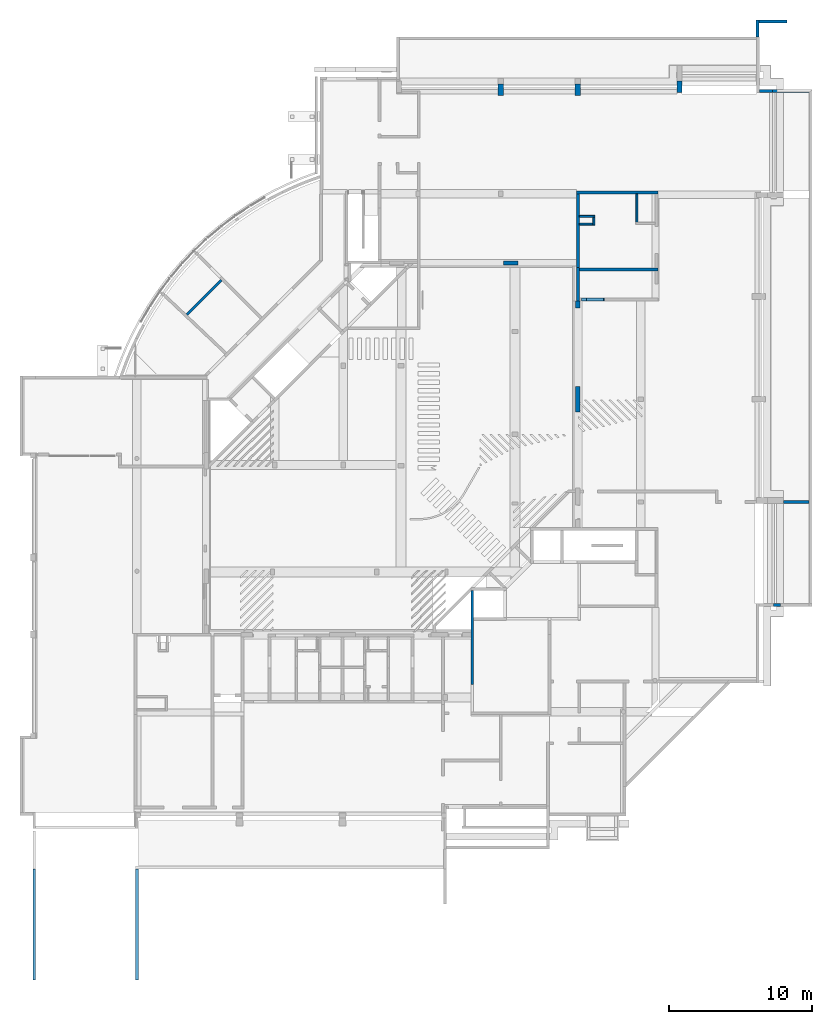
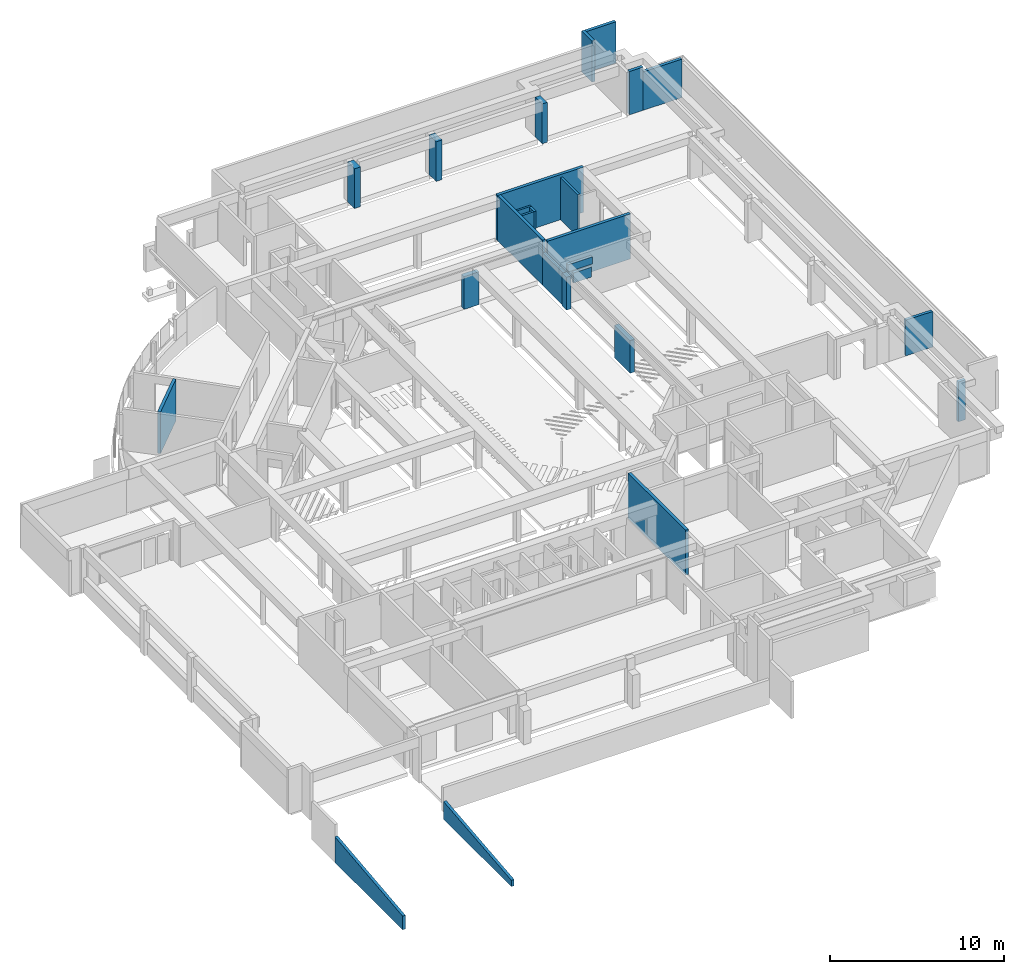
# One storey, part 10 of 22: 26 walls.
"""IFC4X3_ADD2 building model written with IfcOpenShell, lengths in millimetres."""

from ifc_helpers import new_model, si_unit, direction, frame, frame_2d, origin_with_axes, origin_2d_with_axis, place, context, subcontext, project, spatial, rectangle, extrude, polygons, material, type_object, element, save


model = new_model("IFC4X3_ADD2")

# Units and contexts
model_context = context("Model", 3, precision=1e-05, world=origin_with_axes(), true_north=direction((0.0, 1.0)))
body_context = subcontext(model_context, "Body", "Model", "MODEL_VIEW")
ifc_project = project(units=[si_unit("LENGTHUNIT", "METRE", prefix="MILLI"), si_unit("AREAUNIT", "SQUARE_METRE"), si_unit("VOLUMEUNIT", "CUBIC_METRE"), si_unit("PLANEANGLEUNIT", "RADIAN"), si_unit("TIMEUNIT", "SECOND"), si_unit("MASSUNIT", "GRAM")], contexts=[model_context])

# Site, building, storey
site_placement = place(None, origin_with_axes())
site = spatial("IfcSite", under=ifc_project, at=site_placement, Name="Site", CompositionType="ELEMENT")
building_placement = place(site_placement, origin_with_axes())
building = spatial("IfcBuilding", under=site, at=building_placement, Name="IFC Building Story")
storey_placement = place(building_placement, frame((0.0, 0.0, -3240.0), z_axis=(0.0, 0.0, 1.0), x_axis=(1.0, 0.0, 0.0)))
storey = spatial("IfcBuildingStorey", under=building, at=storey_placement, Name="K10", Elevation=-3240.0)

# Walls
ifc_material_1 = material(Name="BB_Beton_Bestaand")
wall_type_1 = type_object("IfcWallType", Name="BB_Beton_Bestaand 200", PredefinedType="NOTDEFINED", material=ifc_material_1)
wall_1_placement = place(storey_placement, origin_with_axes())
element("IfcWall", 1, at=wall_1_placement, inside=storey, type_object=wall_type_1, Name="Basic Wall:BB_XX_Wand uit beton, 200 mm", ObjectType="Basic Wall:BB_XX_Wand uit beton, 200 mm", PredefinedType="SOLIDWALL", context=body_context, shape_type="SweptSolid", body=[
    extrude(rectangle(XDim=2329.995934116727, YDim=199.9999999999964, at=frame_2d((0.0, 0.0), x_axis=(0.0, 1.0))), frame((-12600.0040658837, 37164.99796705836, 0.0), z_axis=(0.0, 0.0, 1.0), x_axis=(1.0, 0.0, 0.0)), (0.0, 0.0, 1.0), 2290.0),
])
wall_2_placement = place(storey_placement, origin_with_axes())
element("IfcWall", 2, at=wall_2_placement, inside=storey, type_object=wall_type_1, Name="Basic Wall:BB_XX_Wand uit beton, 200 mm", ObjectType="Basic Wall:BB_XX_Wand uit beton, 200 mm", PredefinedType="SOLIDWALL", context=body_context, shape_type="SweptSolid", body=[
    extrude(rectangle(XDim=5700.004065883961, YDim=200.0, at=origin_2d_with_axis()), frame((-9850.00203294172, 43600.0, 0.0), z_axis=(0.0, 0.0, 1.0), x_axis=(1.0, 0.0, 0.0)), (0.0, 0.0, 1.0), 3160.0),
])
wall_3_placement = place(storey_placement, origin_with_axes())
element("IfcWall", 3, at=wall_3_placement, inside=storey, type_object=wall_type_1, Name="Basic Wall:BB_XX_Wand uit beton, 200 mm", ObjectType="Basic Wall:BB_XX_Wand uit beton, 200 mm", PredefinedType="SOLIDWALL", context=body_context, shape_type="SweptSolid", body=[
    extrude(rectangle(XDim=5500.00406588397, YDim=200.0, at=origin_2d_with_axis()), frame((-9750.002032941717, 38200.0, 0.0), z_axis=(0.0, 0.0, 1.0), x_axis=(1.0, 0.0, 0.0)), (0.0, 0.0, 1.0), 3160.0),
])
wall_4_placement = place(storey_placement, origin_with_axes())
element("IfcWall", 4, at=wall_4_placement, inside=storey, type_object=wall_type_1, Name="Basic Wall:BB_XX_Wand uit beton, 200 mm", ObjectType="Basic Wall:BB_XX_Wand uit beton, 200 mm", PredefinedType="SOLIDWALL", context=body_context, shape_type="SweptSolid", body=[
    extrude(rectangle(XDim=5170.004065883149, YDim=199.9999999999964, at=frame_2d((0.0, 0.0), x_axis=(0.0, 1.0))), frame((-12600.0040658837, 40914.99796705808, 0.0), z_axis=(0.0, 0.0, 1.0), x_axis=(1.0, 0.0, 0.0)), (0.0, 0.0, 1.0), 3160.0),
])
wall_5_placement = place(storey_placement, origin_with_axes())
element("IfcWall", 5, at=wall_5_placement, inside=storey, type_object=wall_type_1, Name="Basic Wall:BB_XX_Wand uit beton, 200 mm", ObjectType="Basic Wall:BB_XX_Wand uit beton, 200 mm", PredefinedType="SOLIDWALL", context=body_context, shape_type="SweptSolid", body=[
    extrude(rectangle(XDim=909.999999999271, YDim=200.0000000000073, at=origin_2d_with_axis()), frame((589.9999999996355, 50700.0275077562, 0.0), z_axis=(0.0, 0.0, 1.0), x_axis=(1.0, 0.0, 0.0)), (0.0, 0.0, 1.0), 3040.0),
])
wall_6_placement = place(storey_placement, origin_with_axes())
element("IfcWall", 6, at=wall_6_placement, inside=storey, type_object=wall_type_1, Name="Basic Wall:BB_XX_Wand uit beton, 200 mm", ObjectType="Basic Wall:BB_XX_Wand uit beton, 200 mm", PredefinedType="SOLIDWALL", context=body_context, shape_type="SweptSolid", body=[
    extrude(rectangle(XDim=1965.0, YDim=200.0, at=origin_2d_with_axis()), frame((1082.5, 55581.0422367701, 0.0), z_axis=(0.0, 0.0, 1.0), x_axis=(1.0, 0.0, 0.0)), (0.0, 0.0, 1.0), 2890.0),
])
wall_7_placement = place(storey_placement, origin_with_axes())
element("IfcWall", 7, at=wall_7_placement, inside=storey, type_object=wall_type_1, Name="Basic Wall:BB_XX_Wand uit beton, 200 mm", ObjectType="Basic Wall:BB_XX_Wand uit beton, 200 mm", PredefinedType="SOLIDWALL", context=body_context, shape_type="SweptSolid", body=[
    extrude(rectangle(XDim=1181.111007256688, YDim=200.0, at=frame_2d((0.0, 0.0), x_axis=(0.0, 1.0))), frame((0.0, 55090.48673314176, 0.0), z_axis=(0.0, 0.0, 1.0), x_axis=(1.0, 0.0, 0.0)), (0.0, 0.0, 1.0), 2890.0),
])
wall_8_placement = place(storey_placement, origin_with_axes())
element("IfcWall", 8, at=wall_8_placement, inside=storey, type_object=wall_type_1, Name="Basic Wall:BB_XX_Wand uit beton, 200 mm", ObjectType="Basic Wall:BB_XX_Wand uit beton, 200 mm", PredefinedType="SOLIDWALL", context=body_context, shape_type="SweptSolid", body=[
    extrude(rectangle(XDim=2555.04020634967, YDim=200.0000000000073, at=origin_2d_with_axis()), frame((2322.520103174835, 50700.0275077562, 0.0), z_axis=(0.0, 0.0, 1.0), x_axis=(1.0, 0.0, 0.0)), (0.0, 0.0, 1.0), 2690.0),
])
wall_type_2 = type_object("IfcWallType", Name="BB_Beton_Bestaand 400", PredefinedType="NOTDEFINED", material=ifc_material_1)
wall_9_placement = place(storey_placement, origin_with_axes())
element("IfcWall", 9, at=wall_9_placement, inside=storey, type_object=wall_type_2, Name="Basic Wall:BB_XX_Wand uit beton, 400 mm", ObjectType="Basic Wall:BB_XX_Wand uit beton, 400 mm", PredefinedType="SOLIDWALL", context=body_context, shape_type="SweptSolid", body=[
    extrude(rectangle(XDim=799.9999999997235, YDim=400.0, at=frame_2d((0.0, 0.0), x_axis=(0.0, 1.0))), frame((-17999.3313868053, 50780.00000000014, 0.0), z_axis=(0.0, 0.0, 1.0), x_axis=(1.0, 0.0, 0.0)), (0.0, 0.0, 1.0), 2780.0),
])
wall_10_placement = place(storey_placement, origin_with_axes())
element("IfcWall", 10, at=wall_10_placement, inside=storey, type_object=wall_type_2, Name="Basic Wall:BB_XX_Wand uit beton, 400 mm", ObjectType="Basic Wall:BB_XX_Wand uit beton, 400 mm", PredefinedType="SOLIDWALL", context=body_context, shape_type="SweptSolid", body=[
    extrude(rectangle(XDim=799.9999999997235, YDim=400.0, at=frame_2d((0.0, 0.0), x_axis=(0.0, 1.0))), frame((-12599.3313868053, 50780.00000000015, 0.0), z_axis=(0.0, 0.0, 1.0), x_axis=(1.0, 0.0, 0.0)), (0.0, 0.0, 1.0), 2780.0),
])
wall_type_3 = type_object("IfcWallType", Name="BB_Beton_Bestaand 300", PredefinedType="NOTDEFINED", material=ifc_material_1)
wall_11_placement = place(storey_placement, origin_with_axes())
element("IfcWall", 11, at=wall_11_placement, inside=storey, type_object=wall_type_3, Name="Basic Wall:BB_XX_Wand uit beton, 300 mm", ObjectType="Basic Wall:BB_XX_Wand uit beton, 300 mm", PredefinedType="SOLIDWALL", context=body_context, shape_type="SweptSolid", body=[
    extrude(rectangle(XDim=1000.0, YDim=300.0, at=origin_2d_with_axis()), frame((-17300.0, 38650.0, 0.0), z_axis=(0.0, 0.0, 1.0), x_axis=(1.0, 0.0, 0.0)), (0.0, 0.0, 1.0), 2290.0),
])
wall_12_placement = place(storey_placement, origin_with_axes())
element("IfcWall", 12, at=wall_12_placement, inside=storey, type_object=wall_type_3, Name="Basic Wall:BB_XX_Wand uit beton, 300 mm", ObjectType="Basic Wall:BB_XX_Wand uit beton, 300 mm", PredefinedType="SOLIDWALL", context=body_context, shape_type="SweptSolid", body=[
    extrude(rectangle(XDim=500.0, YDim=300.0000000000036, at=frame_2d((0.0, 0.0), x_axis=(0.0, 1.0))), frame((-12600.0, 35750.0, 0.0), z_axis=(0.0, 0.0, 1.0), x_axis=(1.0, 0.0, 0.0)), (0.0, 0.0, 1.0), 2290.0),
])
wall_13_placement = place(storey_placement, origin_with_axes())
element("IfcWall", 13, at=wall_13_placement, inside=storey, type_object=wall_type_3, Name="Basic Wall:BB_XX_Wand uit beton, 300 mm", ObjectType="Basic Wall:BB_XX_Wand uit beton, 300 mm", PredefinedType="SOLIDWALL", context=body_context, shape_type="SweptSolid", body=[
    extrude(rectangle(XDim=1800.0, YDim=300.0000000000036, at=frame_2d((0.0, 0.0), x_axis=(0.0, 1.0))), frame((-12600.0, 29100.0, 0.0), z_axis=(0.0, 0.0, 1.0), x_axis=(1.0, 0.0, 0.0)), (0.0, 0.0, 1.0), 2290.0),
])
wall_type_4 = type_object("IfcWallType", Name="BB_Beton_Bestaand 340", PredefinedType="NOTDEFINED", material=ifc_material_1)
wall_14_placement = place(storey_placement, origin_with_axes())
element("IfcWall", 14, at=wall_14_placement, inside=storey, type_object=wall_type_4, Name="Basic Wall:BB_XX_Wand uit beton, 340 mm", ObjectType="Basic Wall:BB_XX_Wand uit beton, 340 mm", PredefinedType="SOLIDWALL", context=body_context, shape_type="SweptSolid", body=[
    extrude(rectangle(XDim=799.9999999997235, YDim=340.0, at=frame_2d((0.0, 0.0), x_axis=(0.0, 1.0))), frame((-5475.0, 51005.00000000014, 0.0), z_axis=(0.0, 0.0, 1.0), x_axis=(1.0, 0.0, 0.0)), (0.0, 0.0, 1.0), 2780.0),
])
ifc_material_2 = material(Name="BB_Metselwerk_Betonsteen")
wall_type_5 = type_object("IfcWallType", Name="BB_Metselwerk_Betonsteen 190", PredefinedType="NOTDEFINED", material=ifc_material_2)
wall_15_placement = place(storey_placement, origin_with_axes())
element("IfcWall", 15, at=wall_15_placement, inside=storey, type_object=wall_type_5, Name="Basic Wall:BB_03.09.24#05_Wand uit metselwerk_EI60, 190 mm", ObjectType="Basic Wall:BB_03.09.24#05_Wand uit metselwerk_EI60, 190 mm", PredefinedType="SOLIDWALL", context=body_context, shape_type="SweptSolid", body=[
    extrude(rectangle(XDim=1200.0, YDim=190.0, at=origin_2d_with_axis()), frame((-11400.0, 36095.0, 1330.0), z_axis=(0.0, 0.0, 1.0), x_axis=(1.0, 0.0, 0.0)), (0.0, 0.0, 1.0), 700.0),
])
wall_16_placement = place(storey_placement, origin_with_axes())
element("IfcWall", 16, at=wall_16_placement, inside=storey, type_object=wall_type_5, Name="Basic Wall:BB_03.09.24#05_Wand uit metselwerk_EI60, 190 mm", ObjectType="Basic Wall:BB_03.09.24#05_Wand uit metselwerk_EI60, 190 mm", PredefinedType="SOLIDWALL", context=body_context, shape_type="SweptSolid", body=[
    extrude(rectangle(XDim=1600.0, YDim=190.0, at=origin_2d_with_axis()), frame((-11550.0, 36095.0, 2230.0), z_axis=(0.0, 0.0, 1.0), x_axis=(1.0, 0.0, 0.0)), (0.0, 0.0, 1.0), 500.0),
])
wall_type_6 = type_object("IfcWallType", Name="BB_Metselwerk_Betonsteen 140", PredefinedType="NOTDEFINED", material=ifc_material_2)
wall_17_placement = place(storey_placement, origin_with_axes())
element("IfcWall", 17, at=wall_17_placement, inside=storey, type_object=wall_type_6, Name="Basic Wall:BB_03.09.24#02_Wand uit metselwerk_EI60_43dB, 140 mm", ObjectType="Basic Wall:BB_03.09.24#02_Wand uit metselwerk_EI60_43dB, 140 mm", PredefinedType="SOLIDWALL", context=body_context, shape_type="SweptSolid", body=[
    extrude(rectangle(XDim=2000.000000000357, YDim=140.0, at=frame_2d((0.0, 0.0), x_axis=(0.0, 1.0))), frame((-8470.0, 42500.00000000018, 0.0), z_axis=(0.0, 0.0, 1.0), x_axis=(1.0, 0.0, 0.0)), (0.0, 0.0, 1.0), 2960.0),
])
wall_18_placement = place(storey_placement, origin_with_axes())
element("IfcWall", 18, at=wall_18_placement, inside=storey, type_object=wall_type_6, Name="Basic Wall:BB_03.09.24#02_Wand uit metselwerk_EI60_43dB, 140 mm", ObjectType="Basic Wall:BB_03.09.24#02_Wand uit metselwerk_EI60_43dB, 140 mm", PredefinedType="SOLIDWALL", context=body_context, shape_type="SweptSolid", body=[
    extrude(rectangle(XDim=1090.000000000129, YDim=140.0, at=origin_2d_with_axis()), frame((-11955.00406588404, 41920.0, 0.0), z_axis=(0.0, 0.0, 1.0), x_axis=(1.0, 0.0, 0.0)), (0.0, 0.0, 1.0), 2960.0),
])
wall_19_placement = place(storey_placement, origin_with_axes())
element("IfcWall", 19, at=wall_19_placement, inside=storey, type_object=wall_type_6, Name="Basic Wall:BB_03.09.24#02_Wand uit metselwerk_EI60_43dB, 140 mm", ObjectType="Basic Wall:BB_03.09.24#02_Wand uit metselwerk_EI60_43dB, 140 mm", PredefinedType="SOLIDWALL", context=body_context, shape_type="SweptSolid", body=[
    extrude(rectangle(XDim=549.9999999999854, YDim=140.0, at=frame_2d((0.0, 0.0), x_axis=(0.0, 1.0))), frame((-11480.004065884, 41575.00000000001, 0.0), z_axis=(0.0, 0.0, 1.0), x_axis=(1.0, 0.0, 0.0)), (0.0, 0.0, 1.0), 2960.0),
])
wall_20_placement = place(storey_placement, origin_with_axes())
element("IfcWall", 20, at=wall_20_placement, inside=storey, type_object=wall_type_6, Name="Basic Wall:BB_03.09.24#02_Wand uit metselwerk_EI60_43dB, 140 mm", ObjectType="Basic Wall:BB_03.09.24#02_Wand uit metselwerk_EI60_43dB, 140 mm", PredefinedType="SOLIDWALL", context=body_context, shape_type="SweptSolid", body=[
    extrude(rectangle(XDim=950.000000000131, YDim=140.0, at=origin_2d_with_axis()), frame((-12025.00406588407, 41370.0, 0.0), z_axis=(0.0, 0.0, 1.0), x_axis=(1.0, 0.0, 0.0)), (0.0, 0.0, 1.0), 2960.0),
])
wall_21_placement = place(storey_placement, frame((0.0, 0.0, 3240.0), z_axis=(0.0, 0.0, 1.0), x_axis=(1.0, 0.0, 0.0)))
element("IfcWall", 21, at=wall_21_placement, inside=storey, Name="Basic Wall:BB_XX_Wand uit beton, 200 mm", ObjectType="Basic Wall:BB_XX_Wand uit beton, 200 mm", PredefinedType="SOLIDWALL", context=body_context, shape_type="Tessellation", body=[
    polygons([(-19900.0, 9119.999999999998, -80.0), (-19900.0, 9119.999999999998, -3240.0), (-19900.0, 15714.99999999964, -3240.0), (-19900.0, 15714.99999999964, -80.0), (-20100.0, 9119.999999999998, -3240.0), (-20100.0, 9119.999999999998, -80.0), (-20100.0, 15714.99999999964, -80.0), (-20100.0, 15714.99999999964, -3240.0), (-20100.0, 12750.0, -3240.0), (-20100.0, 12449.99999999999, -3240.0)], [[[1, 2, 3, 4]], [[10, 5, 6]], [[10, 6, 7]], [[7, 9, 10]], [[7, 8, 9]], [[9, 8, 3]], [[3, 10, 9]], [[10, 3, 2]], [[2, 5, 10]], [[6, 1, 4, 7]], [[2, 1, 6, 5]], [[4, 3, 8, 7]]]),
])
wall_22_placement = place(storey_placement, frame((0.0, 0.0, 3240.0), z_axis=(0.0, 0.0, 1.0), x_axis=(1.0, 0.0, 0.0)))
element("IfcWall", 22, at=wall_22_placement, inside=storey, Name="Basic Wall:BB_XX_Wand uit metselwerk, 190 mm", ObjectType="Basic Wall:BB_XX_Wand uit metselwerk, 190 mm", PredefinedType="SOLIDWALL", context=body_context, shape_type="Tessellation", body=[
    polygons([(1795.0, 21805.0, -3240.0), (3600.04020634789, 21805.0, -3240.0), (3600.04020634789, 21805.0, -747.87243127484), (1795.0, 21805.0, -728.56746514), (3600.04020634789, 21995.0, -3240.0), (1795.0, 21995.0, -3240.0), (1795.0, 21995.0, -728.56746514), (3600.04020634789, 21995.0, -747.87243127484)], [[[1, 2, 3, 4]], [[5, 6, 7, 8]], [[2, 1, 6, 5]], [[2, 5, 8, 3]], [[6, 1, 4, 7]], [[4, 3, 8, 7]]]),
])
wall_23_placement = place(storey_placement, frame((0.0, 0.0, 3240.0), z_axis=(0.0, 0.0, 1.0), x_axis=(1.0, 0.0, 0.0)))
element("IfcWall", 23, at=wall_23_placement, inside=storey, Name="Basic Wall:BB_XX_Wand uit beton, 190 mm", ObjectType="Basic Wall:BB_XX_Wand uit beton, 190 mm", PredefinedType="SOLIDWALL", context=body_context, shape_type="Tessellation", body=[
    polygons([(-43595.00000000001, -3800.0, -4240.0), (-43595.00000000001, -11595.60384385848, -4240.0), (-43595.00000000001, -11595.60384385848, -3800.0), (-43595.00000000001, -3800.0, -3000.0), (-43405.00000000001, -3800.0, -4240.0), (-43405.00000000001, -3800.0, -3000.0), (-43405.00000000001, -11595.60384385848, -3800.0), (-43405.00000000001, -11595.60384385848, -4240.0)], [[[1, 2, 3, 4]], [[5, 6, 7, 8]], [[2, 1, 5, 8]], [[3, 2, 8, 7]], [[4, 3, 7, 6]], [[1, 4, 6, 5]]]),
])
wall_24_placement = place(storey_placement, frame((0.0, 0.0, 3240.0), z_axis=(0.0, 0.0, 1.0), x_axis=(1.0, 0.0, 0.0)))
element("IfcWall", 24, at=wall_24_placement, inside=storey, Name="Basic Wall:BB_XX_Wand uit beton, 190 mm", ObjectType="Basic Wall:BB_XX_Wand uit beton, 190 mm", PredefinedType="SOLIDWALL", context=body_context, shape_type="Tessellation", body=[
    polygons([(-50795.00000000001, -3815.0, -4739.999999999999), (-50795.00000000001, -11595.60384385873, -4739.999999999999), (-50795.00000000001, -11595.60384385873, -3790.0), (-50795.00000000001, -3815.0, -2940.0), (-50605.00000000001, -3815.0, -4739.999999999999), (-50605.00000000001, -3815.0, -2940.0), (-50605.00000000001, -11595.60384385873, -3790.0), (-50605.00000000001, -11595.60384385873, -4739.999999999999)], [[[1, 2, 3, 4]], [[5, 6, 7, 8]], [[2, 1, 5, 8]], [[3, 2, 8, 7]], [[4, 3, 7, 6]], [[1, 4, 6, 5]]]),
])
wall_25_placement = place(storey_placement, frame((0.0, 0.0, 3240.0), z_axis=(0.0, 0.0, 1.0), x_axis=(1.0, 0.0, 0.0)))
element("IfcWall", 25, at=wall_25_placement, inside=storey, Name="Basic Wall:BB_03.09.24#03_Wand uit metselwerk, 190 mm", ObjectType="Basic Wall:BB_03.09.24#03_Wand uit metselwerk, 190 mm", PredefinedType="SOLIDWALL", context=body_context, shape_type="Tessellation", body=[
    polygons([(-37518.34168201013, 37383.99139354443, -3440.0), (-37518.34168201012, 37383.99139354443, -530.0), (-39935.05103464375, 34967.2820409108, -530.0), (-39935.05103464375, 34967.2820409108, -3440.0), (-37652.69197043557, 37518.34168196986, -530.0), (-37652.69197043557, 37518.34168196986, -3440.0), (-40073.15406642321, 35097.87958598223, -3440.0), (-40073.15406642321, 35097.87958598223, -530.0)], [[[1, 2, 3, 4]], [[5, 6, 7, 8]], [[6, 1, 4, 7]], [[2, 1, 6, 5]], [[2, 5, 8, 3]], [[4, 3, 8, 7]]]),
])
wall_26_placement = place(storey_placement, frame((0.0, 0.0, 3240.0), z_axis=(0.0, 0.0, 1.0), x_axis=(1.0, 0.0, 0.0)))
element("IfcWall", 26, at=wall_26_placement, inside=storey, Name="Basic Wall:BB_XX_Wand uit beton, 200 mm", ObjectType="Basic Wall:BB_XX_Wand uit beton, 200 mm", PredefinedType="SOLIDWALL", context=body_context, shape_type="Tessellation", body=[
    polygons([(1600.0, 14794.99999999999, -3240.0), (1119.999999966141, 14795.0, -3240.0), (1119.999999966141, 14795.0, -460.0), (1600.0, 14794.99999999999, -460.0), (1600.0, 14595.0, -3240.0), (1600.0, 14595.0, -460.0), (1119.999999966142, 14595.0, -460.0), (1119.999999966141, 14595.0, -3240.0)], [[[1, 2, 3, 4]], [[5, 6, 7, 8]], [[2, 1, 5, 8]], [[3, 2, 8, 7]], [[1, 4, 6, 5]], [[4, 3, 7, 6]]]),
])

save(model, "model.ifc")
